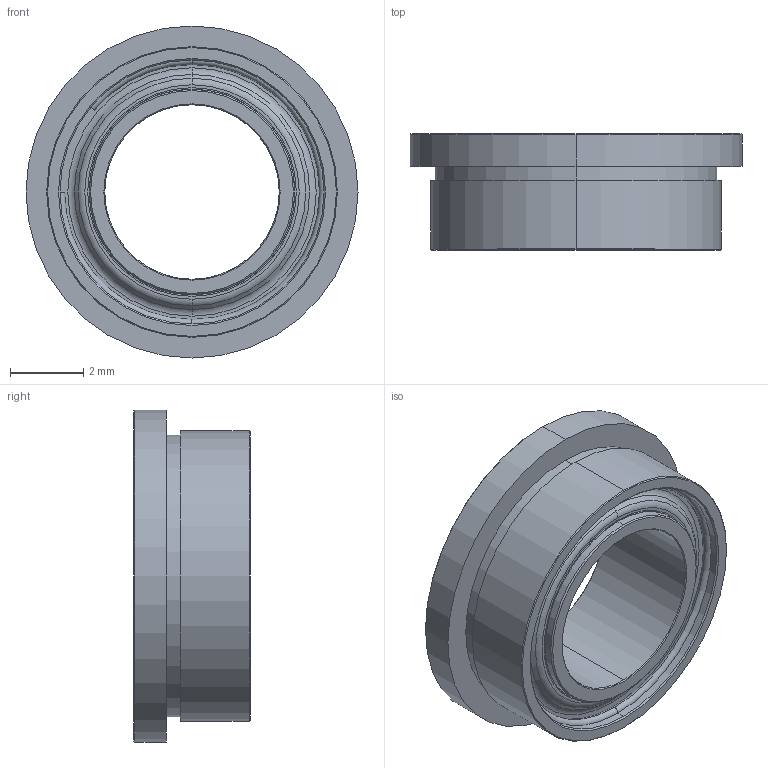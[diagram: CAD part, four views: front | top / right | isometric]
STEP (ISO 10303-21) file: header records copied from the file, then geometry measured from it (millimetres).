
FILE_DESCRIPTION (( 'STEP AP203' ), '1' );
FILE_NAME ('535038.STEP', '2016-10-07T16:04:32', ( '' ), ( '' ), 'SwSTEP 2.0', 'SolidWorks 2014', '' );
FILE_SCHEMA (( 'CONFIG_CONTROL_DESIGN' ));
Length unit declared in the file: inch
Products named in the file (1): 535038
Bounding box: 9.07 x 3.17 x 9.07 mm (x, y, z)
Volume: 99.6 mm3; surface area: 342.2 mm2
Topology: 3 solids, 3 shells, 85 faces, 166 edges, 100 vertices
Faces by surface type: cylinder 26, cone 20, torus 20, plane 19
Entity records: 2283 total; most frequent: DIRECTION 458, CARTESIAN_POINT 352, ORIENTED_EDGE 332, AXIS2_PLACEMENT_3D 206, EDGE_CURVE 166, CIRCLE 120, VERTEX_POINT 100, EDGE_LOOP 100
